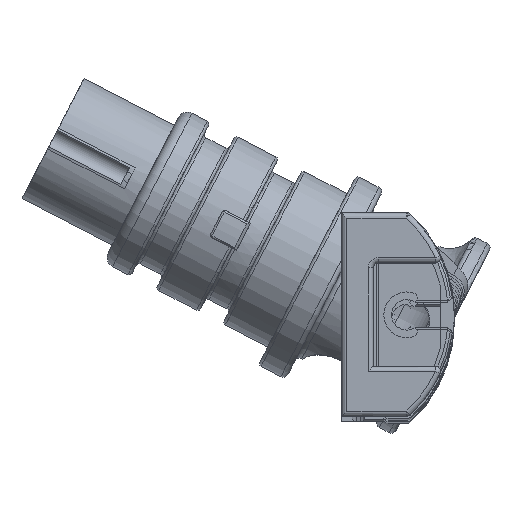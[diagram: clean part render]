
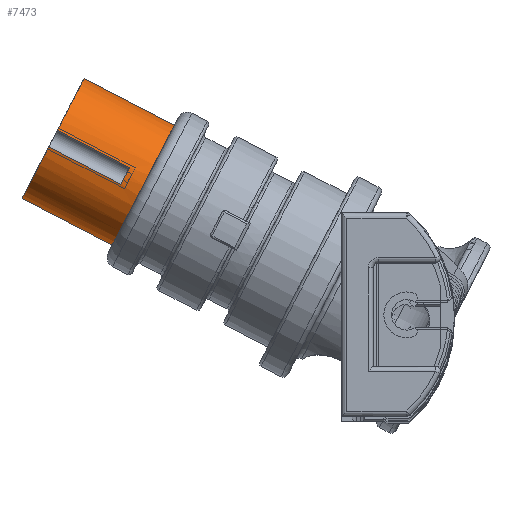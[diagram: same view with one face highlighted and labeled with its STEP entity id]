
A CAD part, top view. The second image highlights one B-rep face of the part: STEP entity #7473.
In plain terms, the highlighted cylindrical face has radius 6.65 mm (diameter 13.3 mm), a partial arc.
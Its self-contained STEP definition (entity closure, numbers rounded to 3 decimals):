
#178 = CARTESIAN_POINT ( 'NONE',  ( -25.25, 13.324, -107.376 ) ) ;
#205 = DIRECTION ( 'NONE',  ( 0.46, 0.888, 0. ) ) ;
#211 = DIRECTION ( 'NONE',  ( -0.888, 0.46, 0. ) ) ;
#1309 = EDGE_CURVE ( 'NONE', #13066, #13060, #2534, .T. ) ;
#1329 = EDGE_CURVE ( 'NONE', #13207, #13073, #2530, .T. ) ;
#1334 = EDGE_CURVE ( 'NONE', #13200, #13138, #2529, .T. ) ;
#1349 = EDGE_CURVE ( 'NONE', #13073, #13060, #2595, .T. ) ;
#1363 = EDGE_CURVE ( 'NONE', #13066, #13058, #2589, .T. ) ;
#1369 = EDGE_CURVE ( 'NONE', #13058, #13228, #2592, .T. ) ;
#1377 = AXIS2_PLACEMENT_3D ( 'NONE', #14144, #14146, #14160 ) ;
#1421 = AXIS2_PLACEMENT_3D ( 'NONE', #14198, #14202, #14203 ) ;
#1429 = AXIS2_PLACEMENT_3D ( 'NONE', #14195, #14268, #14238 ) ;
#1440 = AXIS2_PLACEMENT_3D ( 'NONE', #6162, #6143, #6152 ) ;
#1960 = EDGE_CURVE ( 'NONE', #13138, #13228, #3028, .T. ) ;
#2007 = EDGE_CURVE ( 'NONE', #13200, #13207, #3063, .T. ) ;
#2284 = EDGE_LOOP ( 'NONE', ( #9946, #9932, #9935, #9982, #10041, #10090, #10094, #10044 ) ) ;
#2529 = CIRCLE ( 'NONE', #1429, 6.65 ) ;
#2530 = CIRCLE ( 'NONE', #1421, 6.65 ) ;
#2534 = CIRCLE ( 'NONE', #1377, 6.65 ) ;
#2569 = VECTOR ( 'NONE', #14312, 1000. ) ;
#2584 = VECTOR ( 'NONE', #6126, 1000. ) ;
#2589 = LINE ( 'NONE', #6161, #2584 ) ;
#2592 = CIRCLE ( 'NONE', #1440, 6.65 ) ;
#2595 = LINE ( 'NONE', #14334, #2569 ) ;
#3028 = LINE ( 'NONE', #6949, #3055 ) ;
#3055 = VECTOR ( 'NONE', #6951, 1000. ) ;
#3063 = LINE ( 'NONE', #7156, #3139 ) ;
#3139 = VECTOR ( 'NONE', #7138, 1000. ) ;
#6126 = DIRECTION ( 'NONE',  ( -0.888, 0.46, 0. ) ) ;
#6143 = DIRECTION ( 'NONE',  ( 0.888, -0.46, 0. ) ) ;
#6152 = DIRECTION ( 'NONE',  ( -0.46, -0.888, 0. ) ) ;
#6161 = CARTESIAN_POINT ( 'NONE',  ( -30.997, 15.275, -100.789 ) ) ;
#6162 = CARTESIAN_POINT ( 'NONE',  ( -34.131, 17.923, -107.376 ) ) ;
#6949 = CARTESIAN_POINT ( 'NONE',  ( -28.308, 7.419, -107.376 ) ) ;
#6951 = DIRECTION ( 'NONE',  ( -0.888, 0.46, 0. ) ) ;
#7138 = DIRECTION ( 'NONE',  ( -0.888, 0.46, 0. ) ) ;
#7156 = CARTESIAN_POINT ( 'NONE',  ( -22.193, 19.23, -107.376 ) ) ;
#7473 = ADVANCED_FACE ( 'NONE', ( #12307 ), #12280, .T. ) ;
#8840 = AXIS2_PLACEMENT_3D ( 'NONE', #178, #211, #205 ) ;
#9932 = ORIENTED_EDGE ( 'NONE', *, *, #1334, .F. ) ;
#9935 = ORIENTED_EDGE ( 'NONE', *, *, #2007, .T. ) ;
#9946 = ORIENTED_EDGE ( 'NONE', *, *, #1960, .F. ) ;
#9982 = ORIENTED_EDGE ( 'NONE', *, *, #1329, .T. ) ;
#10041 = ORIENTED_EDGE ( 'NONE', *, *, #1349, .T. ) ;
#10044 = ORIENTED_EDGE ( 'NONE', *, *, #1369, .T. ) ;
#10090 = ORIENTED_EDGE ( 'NONE', *, *, #1309, .F. ) ;
#10094 = ORIENTED_EDGE ( 'NONE', *, *, #1363, .T. ) ;
#10550 = CARTESIAN_POINT ( 'NONE',  ( -28.308, 7.419, -107.376 ) ) ;
#10575 = CARTESIAN_POINT ( 'NONE',  ( -31.073, 23.828, -107.376 ) ) ;
#10604 = CARTESIAN_POINT ( 'NONE',  ( -22.193, 19.23, -107.376 ) ) ;
#10650 = CARTESIAN_POINT ( 'NONE',  ( -37.188, 12.017, -107.376 ) ) ;
#11668 = CARTESIAN_POINT ( 'NONE',  ( -33.712, 18.732, -100.789 ) ) ;
#11677 = CARTESIAN_POINT ( 'NONE',  ( -26.608, 15.053, -100.789 ) ) ;
#11678 = CARTESIAN_POINT ( 'NONE',  ( -34.549, 17.114, -100.789 ) ) ;
#11692 = CARTESIAN_POINT ( 'NONE',  ( -27.445, 13.435, -100.789 ) ) ;
#12280 = CYLINDRICAL_SURFACE ( 'NONE', #8840, 6.65 ) ;
#12307 = FACE_OUTER_BOUND ( 'NONE', #2284, .T. ) ;
#13058 = VERTEX_POINT ( 'NONE', #11678 ) ;
#13060 = VERTEX_POINT ( 'NONE', #11677 ) ;
#13066 = VERTEX_POINT ( 'NONE', #11692 ) ;
#13073 = VERTEX_POINT ( 'NONE', #11668 ) ;
#13138 = VERTEX_POINT ( 'NONE', #10550 ) ;
#13200 = VERTEX_POINT ( 'NONE', #10604 ) ;
#13207 = VERTEX_POINT ( 'NONE', #10575 ) ;
#13228 = VERTEX_POINT ( 'NONE', #10650 ) ;
#14144 = CARTESIAN_POINT ( 'NONE',  ( -27.026, 14.244, -107.376 ) ) ;
#14146 = DIRECTION ( 'NONE',  ( -0.888, 0.46, 0. ) ) ;
#14160 = DIRECTION ( 'NONE',  ( 0.46, 0.888, 0. ) ) ;
#14195 = CARTESIAN_POINT ( 'NONE',  ( -25.25, 13.324, -107.376 ) ) ;
#14198 = CARTESIAN_POINT ( 'NONE',  ( -34.131, 17.923, -107.376 ) ) ;
#14202 = DIRECTION ( 'NONE',  ( 0.888, -0.46, 0. ) ) ;
#14203 = DIRECTION ( 'NONE',  ( -0.46, -0.888, 0. ) ) ;
#14238 = DIRECTION ( 'NONE',  ( -0.46, -0.888, 0. ) ) ;
#14268 = DIRECTION ( 'NONE',  ( 0.888, -0.46, 0. ) ) ;
#14312 = DIRECTION ( 'NONE',  ( 0.888, -0.46, 0. ) ) ;
#14334 = CARTESIAN_POINT ( 'NONE',  ( -30.16, 16.892, -100.789 ) ) ;
